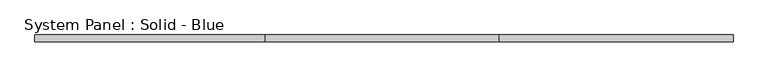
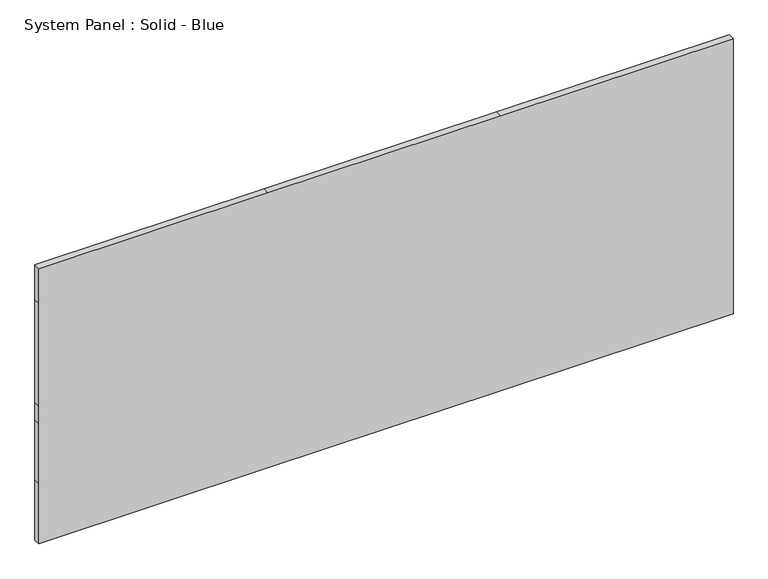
"""IFC4 building model written with IfcOpenShell, lengths in millimetres: plate geometry, System Panel : Solid - Blue."""

from ifc_helpers import new_model, si_unit, frame, origin, place, context, project, spatial, polyline, outline, extrude, source, transform, mapped, element, save


def system_panel_solid_blue_09d91344(model_context):
    return source(origin(), model_context, "Body", "SweptSolid", [
        extrude(outline(polyline([(0.0, -3329.305), (0.0, -1130.935), (0.0, 1099.185), (0.0, 3329.305), (609.6, 3329.305), (1219.2, 3329.305), (1395.176362, 3329.305), (2438.4, 3329.305), (2790.3527241, 3329.305), (2790.3527241, 1099.185), (2790.3527241, -1130.935), (2790.3527241, -3329.305), (2438.4, -3329.305), (1395.176362, -3329.305), (1219.2, -3329.305), (609.6, -3329.305), (0.0, -3329.305)])), frame((0.0, -19.05, 0.0), z_axis=(0.0, 1.0, 0.0), x_axis=(0.0, 0.0, 1.0)), (0.0, 0.0, 1.0), 63.5),
    ])


if __name__ == "__main__":
    model = new_model("IFC4")
    model_context = context("Model", 3, world=origin())
    ifc_project = project(units=[si_unit("LENGTHUNIT", "METRE", prefix="MILLI")], contexts=[model_context])
    site = spatial("IfcSite", under=ifc_project)
    building = spatial("IfcBuilding", under=site)
    placement = place(None, origin())
    system_panel_solid_blue_shape = system_panel_solid_blue_09d91344(model_context)
    element("IfcPlate", 1, ObjectType="System Panel : Solid - Blue", at=placement, inside=building, context=model_context, shape_type="MappedRepresentation", body=[
        mapped(system_panel_solid_blue_shape, transform((0.0, 0.0, 0.0), x_axis=(1.0, 0.0, 0.0), y_axis=(0.0, 1.0, 0.0), z_axis=(0.0, 0.0, 1.0))),
    ])
    save(model, "model.ifc")
